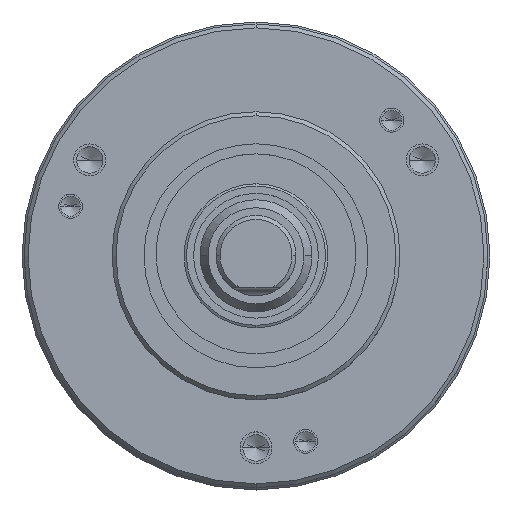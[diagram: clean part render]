
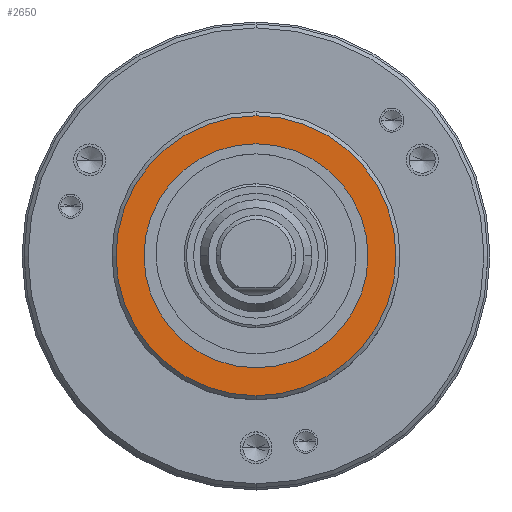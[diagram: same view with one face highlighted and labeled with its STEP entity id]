
A CAD part, top view. The second image highlights one B-rep face of the part: STEP entity #2650.
In plain terms, the highlighted planar face has unit normal (0, 0, 1).
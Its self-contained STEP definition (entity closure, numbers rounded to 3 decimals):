
#101 = EDGE_CURVE ( 'NONE', #102, #103, #620, .T. ) ;
#102 = VERTEX_POINT ( 'NONE', #616 ) ;
#103 = VERTEX_POINT ( 'NONE', #615 ) ;
#217 = VERTEX_POINT ( 'NONE', #886 ) ;
#274 = EDGE_CURVE ( 'NONE', #217, #275, #968, .T. ) ;
#275 = VERTEX_POINT ( 'NONE', #964 ) ;
#615 = CARTESIAN_POINT ( 'NONE',  ( 0., 17.5, 0. ) ) ;
#616 = CARTESIAN_POINT ( 'NONE',  ( 0., -17.5, 0. ) ) ;
#617 = DIRECTION ( 'NONE',  ( 0., -1., 0. ) ) ;
#618 = DIRECTION ( 'NONE',  ( 0., 0., 1. ) ) ;
#619 = AXIS2_PLACEMENT_3D ( 'NONE', #626, #618, #617 ) ;
#620 = CIRCLE ( 'NONE', #619, 17.5 ) ;
#626 = CARTESIAN_POINT ( 'NONE',  ( 0., 0., 0. ) ) ;
#886 = CARTESIAN_POINT ( 'NONE',  ( 14., 0., 0. ) ) ;
#964 = CARTESIAN_POINT ( 'NONE',  ( -14., 0., 0. ) ) ;
#965 = DIRECTION ( 'NONE',  ( -1., 0., 0. ) ) ;
#966 = DIRECTION ( 'NONE',  ( 0., 0., 1. ) ) ;
#967 = AXIS2_PLACEMENT_3D ( 'NONE', #974, #966, #965 ) ;
#968 = CIRCLE ( 'NONE', #967, 14. ) ;
#974 = CARTESIAN_POINT ( 'NONE',  ( 0., 0., 0. ) ) ;
#1406 = DIRECTION ( 'NONE',  ( -1., 0., 0. ) ) ;
#1407 = DIRECTION ( 'NONE',  ( 0., 0., 1. ) ) ;
#1408 = CARTESIAN_POINT ( 'NONE',  ( 0., 0., 0. ) ) ;
#1409 = AXIS2_PLACEMENT_3D ( 'NONE', #1408, #1407, #1406 ) ;
#1410 = CIRCLE ( 'NONE', #1409, 14. ) ;
#1447 = DIRECTION ( 'NONE',  ( 0., -1., 0. ) ) ;
#1448 = DIRECTION ( 'NONE',  ( 0., 0., 1. ) ) ;
#1449 = CARTESIAN_POINT ( 'NONE',  ( 0., 0., 0. ) ) ;
#1450 = AXIS2_PLACEMENT_3D ( 'NONE', #1449, #1448, #1447 ) ;
#1451 = PLANE ( 'NONE',  #1450 ) ;
#1452 = FACE_BOUND ( 'NONE', #2637, .T. ) ;
#1453 = FACE_OUTER_BOUND ( 'NONE', #2633, .T. ) ;
#2537 = ORIENTED_EDGE ( 'NONE', *, *, #274, .F. ) ;
#2632 = EDGE_CURVE ( 'NONE', #275, #217, #1410, .T. ) ;
#2633 = EDGE_LOOP ( 'NONE', ( #2647, #2639 ) ) ;
#2637 = EDGE_LOOP ( 'NONE', ( #2645, #2537 ) ) ;
#2639 = ORIENTED_EDGE ( 'NONE', *, *, #101, .T. ) ;
#2645 = ORIENTED_EDGE ( 'NONE', *, *, #2632, .F. ) ;
#2647 = ORIENTED_EDGE ( 'NONE', *, *, #3283, .T. ) ;
#2650 = ADVANCED_FACE ( 'NONE', ( #1453, #1452 ), #1451, .T. ) ;
#3283 = EDGE_CURVE ( 'NONE', #103, #102, #11627, .T. ) ;
#11623 = DIRECTION ( 'NONE',  ( 0., -1., 0. ) ) ;
#11624 = DIRECTION ( 'NONE',  ( 0., 0., 1. ) ) ;
#11625 = CARTESIAN_POINT ( 'NONE',  ( 0., 0., 0. ) ) ;
#11626 = AXIS2_PLACEMENT_3D ( 'NONE', #11625, #11624, #11623 ) ;
#11627 = CIRCLE ( 'NONE', #11626, 17.5 ) ;
